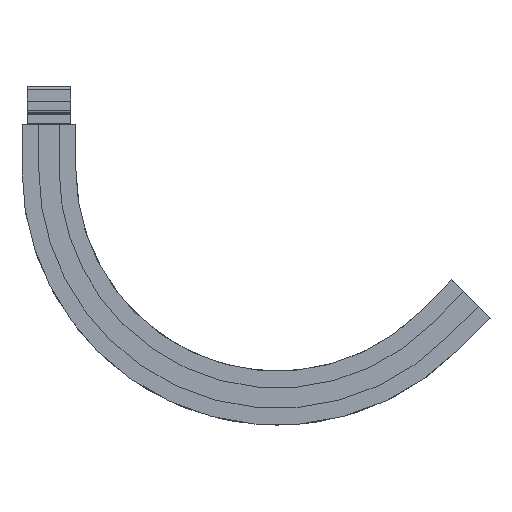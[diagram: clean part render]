
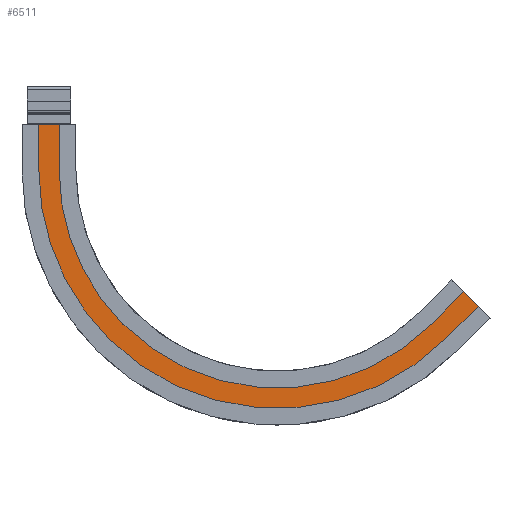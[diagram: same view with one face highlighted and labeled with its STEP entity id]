
A CAD part, front view. The second image highlights one B-rep face of the part: STEP entity #6511.
In plain terms, the highlighted planar face has unit normal (0, -1, 0).
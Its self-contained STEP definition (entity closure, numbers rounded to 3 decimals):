
#974 = EDGE_LOOP ( 'NONE', ( #11258, #11259, #11260, #11261, #11262, #11263, #11264, #11265, #11266, #11267 ) ) ;
#2092 = AXIS2_PLACEMENT_3D ( 'NONE', #7707, #7706, #7705 ) ;
#2355 = AXIS2_PLACEMENT_3D ( 'NONE', #6093, #6092, #6091 ) ;
#2356 = AXIS2_PLACEMENT_3D ( 'NONE', #6081, #6079, #6078 ) ;
#2409 = AXIS2_PLACEMENT_3D ( 'NONE', #10120, #10119, #10117 ) ;
#2411 = AXIS2_PLACEMENT_3D ( 'NONE', #10105, #10104, #10103 ) ;
#5324 = CARTESIAN_POINT ( 'NONE',  ( 694.418, -43.722, -134.476 ) ) ;
#5398 = CARTESIAN_POINT ( 'NONE',  ( -169.094, -43.722, 195.035 ) ) ;
#5402 = CARTESIAN_POINT ( 'NONE',  ( -12.689, -43.722, -182.56 ) ) ;
#5403 = CARTESIAN_POINT ( 'NONE',  ( 35.395, -43.722, -134.476 ) ) ;
#5638 = VERTEX_POINT ( 'NONE', #7830 ) ;
#5640 = VERTEX_POINT ( 'NONE', #7828 ) ;
#5963 = DIRECTION ( 'NONE',  ( 0., 0., 1. ) ) ;
#5965 = CARTESIAN_POINT ( 'NONE',  ( -169.094, -43.722, 195.035 ) ) ;
#5988 = DIRECTION ( 'NONE',  ( 0., 0., 1. ) ) ;
#5989 = CARTESIAN_POINT ( 'NONE',  ( -101.094, -43.722, 195.035 ) ) ;
#6078 = DIRECTION ( 'NONE',  ( -0.707, 0., -0.707 ) ) ;
#6079 = DIRECTION ( 'NONE',  ( 0., 1., 0. ) ) ;
#6081 = CARTESIAN_POINT ( 'NONE',  ( 364.906, -43.722, 195.035 ) ) ;
#6082 = DIRECTION ( 'NONE',  ( 0.707, 0., -0.707 ) ) ;
#6083 = CARTESIAN_POINT ( 'NONE',  ( 765.129, -43.722, -63.766 ) ) ;
#6085 = DIRECTION ( 'NONE',  ( 0.707, 0., 0.707 ) ) ;
#6086 = CARTESIAN_POINT ( 'NONE',  ( 694.418, -43.722, -134.476 ) ) ;
#6088 = DIRECTION ( 'NONE',  ( -1., 0., 0. ) ) ;
#6089 = CARTESIAN_POINT ( 'NONE',  ( -101.094, -43.722, 295.035 ) ) ;
#6091 = DIRECTION ( 'NONE',  ( -0.707, 0., -0.707 ) ) ;
#6092 = DIRECTION ( 'NONE',  ( 0., 1., 0. ) ) ;
#6093 = CARTESIAN_POINT ( 'NONE',  ( 364.906, -43.722, 195.035 ) ) ;
#6095 = DIRECTION ( 'NONE',  ( 0.707, 0., 0.707 ) ) ;
#6096 = CARTESIAN_POINT ( 'NONE',  ( 742.501, -43.722, -182.56 ) ) ;
#6511 = ADVANCED_FACE ( 'NONE', ( #10385 ), #7708, .T. ) ;
#6695 = CIRCLE ( 'NONE', #2411, 534. ) ;
#6726 = CIRCLE ( 'NONE', #2409, 466. ) ;
#7705 = DIRECTION ( 'NONE',  ( 0.707, 0., -0.707 ) ) ;
#7706 = DIRECTION ( 'NONE',  ( 0., -1., 0. ) ) ;
#7707 = CARTESIAN_POINT ( 'NONE',  ( 694.418, -43.722, -134.476 ) ) ;
#7708 = PLANE ( 'NONE',  #2092 ) ;
#7828 = CARTESIAN_POINT ( 'NONE',  ( 813.212, -43.722, -111.849 ) ) ;
#7830 = CARTESIAN_POINT ( 'NONE',  ( 765.129, -43.722, -63.766 ) ) ;
#8457 = VECTOR ( 'NONE', #5963, 1000. ) ;
#8458 = LINE ( 'NONE', #5965, #8457 ) ;
#8472 = VECTOR ( 'NONE', #5988, 1000. ) ;
#8474 = LINE ( 'NONE', #5989, #8472 ) ;
#8525 = CIRCLE ( 'NONE', #2356, 466. ) ;
#8527 = VECTOR ( 'NONE', #6082, 1000. ) ;
#8528 = LINE ( 'NONE', #6083, #8527 ) ;
#8529 = VECTOR ( 'NONE', #6085, 1000. ) ;
#8530 = LINE ( 'NONE', #6086, #8529 ) ;
#8531 = VECTOR ( 'NONE', #6088, 1000. ) ;
#8532 = CIRCLE ( 'NONE', #2355, 534. ) ;
#8533 = LINE ( 'NONE', #6089, #8531 ) ;
#8534 = VECTOR ( 'NONE', #6095, 1000. ) ;
#8536 = LINE ( 'NONE', #6096, #8534 ) ;
#9379 = EDGE_CURVE ( 'NONE', #13870, #5640, #8536, .T. ) ;
#9380 = EDGE_CURVE ( 'NONE', #13870, #13638, #8532, .T. ) ;
#9381 = EDGE_CURVE ( 'NONE', #13774, #13789, #8533, .T. ) ;
#9382 = EDGE_CURVE ( 'NONE', #13560, #5638, #8530, .T. ) ;
#9383 = EDGE_CURVE ( 'NONE', #5638, #5640, #8528, .T. ) ;
#9384 = EDGE_CURVE ( 'NONE', #13639, #13775, #8525, .T. ) ;
#9414 = EDGE_CURVE ( 'NONE', #13775, #13774, #8474, .T. ) ;
#9422 = EDGE_CURVE ( 'NONE', #13634, #13789, #8458, .T. ) ;
#9567 = EDGE_CURVE ( 'NONE', #13560, #13639, #6726, .T. ) ;
#9571 = EDGE_CURVE ( 'NONE', #13638, #13634, #6695, .T. ) ;
#10103 = DIRECTION ( 'NONE',  ( -0.707, 0., -0.707 ) ) ;
#10104 = DIRECTION ( 'NONE',  ( 0., 1., 0. ) ) ;
#10105 = CARTESIAN_POINT ( 'NONE',  ( 364.906, -43.722, 195.035 ) ) ;
#10117 = DIRECTION ( 'NONE',  ( -0.707, 0., -0.707 ) ) ;
#10119 = DIRECTION ( 'NONE',  ( 0., 1., 0. ) ) ;
#10120 = CARTESIAN_POINT ( 'NONE',  ( 364.906, -43.722, 195.035 ) ) ;
#10385 = FACE_OUTER_BOUND ( 'NONE', #974, .T. ) ;
#11258 = ORIENTED_EDGE ( 'NONE', *, *, #9383, .F. ) ;
#11259 = ORIENTED_EDGE ( 'NONE', *, *, #9382, .F. ) ;
#11260 = ORIENTED_EDGE ( 'NONE', *, *, #9567, .T. ) ;
#11261 = ORIENTED_EDGE ( 'NONE', *, *, #9384, .T. ) ;
#11262 = ORIENTED_EDGE ( 'NONE', *, *, #9414, .T. ) ;
#11263 = ORIENTED_EDGE ( 'NONE', *, *, #9381, .T. ) ;
#11264 = ORIENTED_EDGE ( 'NONE', *, *, #9422, .F. ) ;
#11265 = ORIENTED_EDGE ( 'NONE', *, *, #9571, .F. ) ;
#11266 = ORIENTED_EDGE ( 'NONE', *, *, #9380, .F. ) ;
#11267 = ORIENTED_EDGE ( 'NONE', *, *, #9379, .T. ) ;
#13560 = VERTEX_POINT ( 'NONE', #5324 ) ;
#13634 = VERTEX_POINT ( 'NONE', #5398 ) ;
#13638 = VERTEX_POINT ( 'NONE', #5402 ) ;
#13639 = VERTEX_POINT ( 'NONE', #5403 ) ;
#13774 = VERTEX_POINT ( 'NONE', #14929 ) ;
#13775 = VERTEX_POINT ( 'NONE', #14930 ) ;
#13789 = VERTEX_POINT ( 'NONE', #14944 ) ;
#13870 = VERTEX_POINT ( 'NONE', #15025 ) ;
#14929 = CARTESIAN_POINT ( 'NONE',  ( -101.094, -43.722, 295.035 ) ) ;
#14930 = CARTESIAN_POINT ( 'NONE',  ( -101.094, -43.722, 195.035 ) ) ;
#14944 = CARTESIAN_POINT ( 'NONE',  ( -169.094, -43.722, 295.035 ) ) ;
#15025 = CARTESIAN_POINT ( 'NONE',  ( 742.501, -43.722, -182.56 ) ) ;
